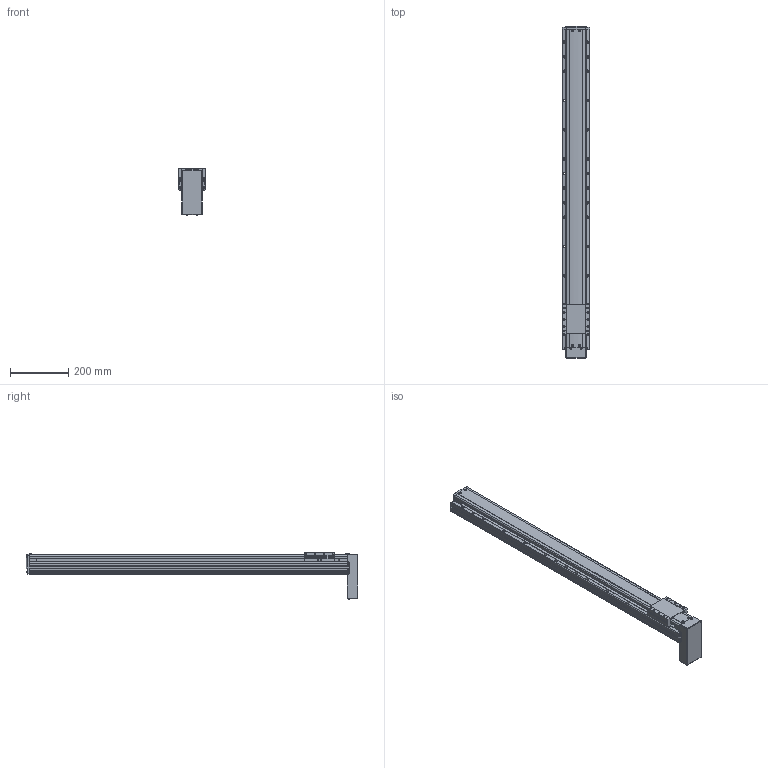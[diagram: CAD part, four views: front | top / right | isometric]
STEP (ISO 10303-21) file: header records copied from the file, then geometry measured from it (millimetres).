
FILE_DESCRIPTION(('STEP AP214'),'1');
FILE_NAME('Z:/Web/3D/PSA95/STP/PSA95-900 (3D)/PSA95ㅁㅁ-900PB.stp','2014-07-03T00:57:36',(' '),(' '),'Spatial InterOp 3D',' ',' ');
FILE_SCHEMA(('automotive_design'));
Length unit declared in the file: millimetre
Products named in the file (29): BASE; RRCV; 스크루 : Round - M4.0 x 10.0; 너트 : Square - M10.0 x 220.7419; RR1500; FRCV-090; 스크루 : Round - M4.0 x 6.0; SLBL-PA90; MTPL COVER; 스크루 : Round - M3.0 x 6.0; 1; 2
Bounding box: 95.1 x 1137.5 x 159.57 mm (x, y, z)
Volume: 6271065 mm3; surface area: 616988.7 mm2
Topology: 29 solids, 29 shells, 2129 faces, 5685 edges, 3611 vertices
Faces by surface type: plane 1142, cylinder 669, cone 230, sphere 50, bspline 24, torus 14
Entity records: 85560 total; most frequent: CARTESIAN_POINT 14605, DIRECTION 11288, ORIENTED_EDGE 11066, EDGE_CURVE 5533, AXIS2_PLACEMENT_3D 3808, LINE 3672, VECTOR 3672, VERTEX_POINT 3611
